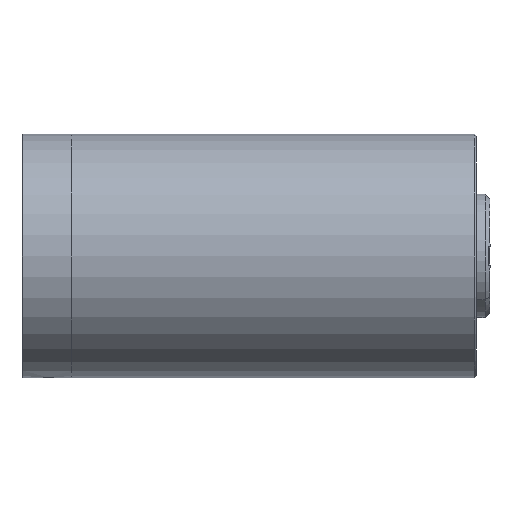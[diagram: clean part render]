
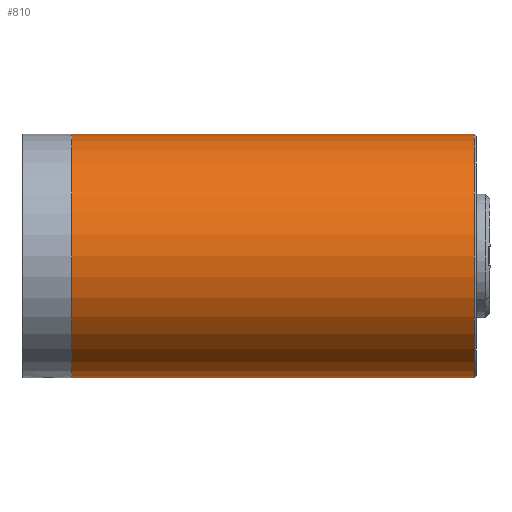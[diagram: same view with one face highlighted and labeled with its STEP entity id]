
A CAD part, front view. The second image highlights one B-rep face of the part: STEP entity #810.
In plain terms, the highlighted cylindrical face has radius 12.5 mm (diameter 25 mm), a partial arc.
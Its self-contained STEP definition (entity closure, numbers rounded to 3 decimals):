
#8 = VERTEX_POINT ( 'NONE', #1228 ) ;
#104 = CARTESIAN_POINT ( 'NONE',  ( 96.368, -24.97, -12.5 ) ) ;
#108 = CARTESIAN_POINT ( 'NONE',  ( 55.068, -24.97, 12.5 ) ) ;
#153 = DIRECTION ( 'NONE',  ( 0., 0., 1. ) ) ;
#606 = EDGE_CURVE ( 'NONE', #3515, #8, #777, .T. ) ;
#700 = LINE ( 'NONE', #4016, #4260 ) ;
#777 = LINE ( 'NONE', #3084, #888 ) ;
#810 = ADVANCED_FACE ( 'NONE', ( #4052 ), #2598, .T. ) ;
#859 = DIRECTION ( 'NONE',  ( -1., 0., 0. ) ) ;
#876 = CIRCLE ( 'NONE', #2749, 12.5 ) ;
#888 = VECTOR ( 'NONE', #2085, 1000. ) ;
#1228 = CARTESIAN_POINT ( 'NONE',  ( 55.068, -24.97, -12.5 ) ) ;
#1427 = VERTEX_POINT ( 'NONE', #108 ) ;
#1552 = ORIENTED_EDGE ( 'NONE', *, *, #606, .F. ) ;
#1586 = CARTESIAN_POINT ( 'NONE',  ( 55.068, -24.97, 0. ) ) ;
#1657 = AXIS2_PLACEMENT_3D ( 'NONE', #1793, #2492, #4196 ) ;
#1793 = CARTESIAN_POINT ( 'NONE',  ( 96.568, -24.97, 0. ) ) ;
#1999 = VERTEX_POINT ( 'NONE', #3337 ) ;
#2085 = DIRECTION ( 'NONE',  ( -1., 0., 0. ) ) ;
#2483 = CARTESIAN_POINT ( 'NONE',  ( 96.368, -24.97, 0. ) ) ;
#2492 = DIRECTION ( 'NONE',  ( -1., 0., 0. ) ) ;
#2598 = CYLINDRICAL_SURFACE ( 'NONE', #1657, 12.5 ) ;
#2660 = ORIENTED_EDGE ( 'NONE', *, *, #3902, .T. ) ;
#2749 = AXIS2_PLACEMENT_3D ( 'NONE', #2483, #3159, #3476 ) ;
#2768 = ORIENTED_EDGE ( 'NONE', *, *, #4132, .T. ) ;
#2824 = EDGE_LOOP ( 'NONE', ( #1552, #2660, #2768, #2892 ) ) ;
#2892 = ORIENTED_EDGE ( 'NONE', *, *, #3649, .F. ) ;
#3084 = CARTESIAN_POINT ( 'NONE',  ( 96.568, -24.97, -12.5 ) ) ;
#3159 = DIRECTION ( 'NONE',  ( -1., 0., 0. ) ) ;
#3337 = CARTESIAN_POINT ( 'NONE',  ( 96.368, -24.97, 12.5 ) ) ;
#3476 = DIRECTION ( 'NONE',  ( 0., 0., -1. ) ) ;
#3515 = VERTEX_POINT ( 'NONE', #104 ) ;
#3649 = EDGE_CURVE ( 'NONE', #8, #1427, #4087, .T. ) ;
#3902 = EDGE_CURVE ( 'NONE', #3515, #1999, #876, .T. ) ;
#3954 = DIRECTION ( 'NONE',  ( -1., 0., 0. ) ) ;
#4016 = CARTESIAN_POINT ( 'NONE',  ( 96.568, -24.97, 12.5 ) ) ;
#4052 = FACE_OUTER_BOUND ( 'NONE', #2824, .T. ) ;
#4087 = CIRCLE ( 'NONE', #4234, 12.5 ) ;
#4132 = EDGE_CURVE ( 'NONE', #1999, #1427, #700, .T. ) ;
#4196 = DIRECTION ( 'NONE',  ( 0., 0., 1. ) ) ;
#4234 = AXIS2_PLACEMENT_3D ( 'NONE', #1586, #859, #153 ) ;
#4260 = VECTOR ( 'NONE', #3954, 1000. ) ;
